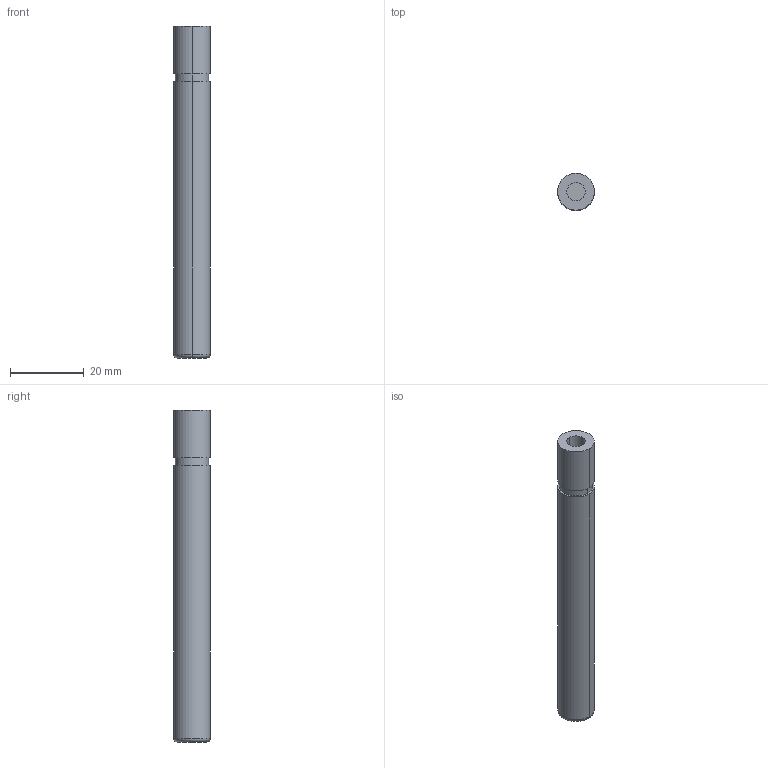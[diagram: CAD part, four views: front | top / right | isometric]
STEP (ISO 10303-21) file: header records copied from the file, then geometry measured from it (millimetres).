
FILE_DESCRIPTION(/* description */ (''),/* implementation_level */ '2;1');
FILE_NAME(/* name */ '3d_sgpn10-90_00278_r00.stp',/* time_stamp */ '2011-01-10T14:11:07+09:00',/* author */ ('MISUMI'),/* organization */ (''),/* preprocessor_version */ 'ST-DEVELOPER v11',/* originating_system */ 'UGS - NX 5.0',/* authorisation */ '');
FILE_SCHEMA (('CONFIG_CONTROL_DESIGN'));
Length unit declared in the file: millimetre
Products named in the file (1): 3d_sgpn10-90_00278_r00
Bounding box: 10 x 10 x 90 mm (x, y, z)
Volume: 6796.7 mm3; surface area: 3182.6 mm2
Topology: 1 solids, 1 shells, 15 faces, 28 edges, 18 vertices
Faces by surface type: cylinder 8, plane 5, torus 2
Entity records: 472 total; most frequent: DIRECTION 80, CARTESIAN_POINT 62, ORIENTED_EDGE 56, AXIS2_PLACEMENT_3D 36, EDGE_CURVE 28, CIRCLE 20, EDGE_LOOP 18, VERTEX_POINT 18
